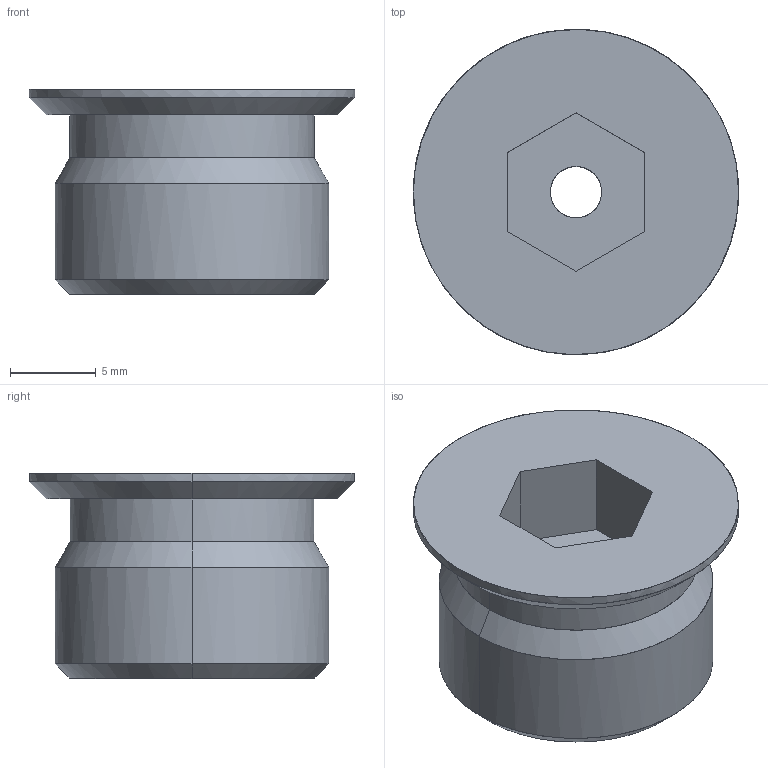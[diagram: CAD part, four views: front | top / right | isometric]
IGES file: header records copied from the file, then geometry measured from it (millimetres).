
Global section: file name: E:\UnigraphicsGraphicData\MISUMI_PRESS-PARTS\IGES\3d_mswzh16_00481_r00.igs; native system: NX V5.0; preprocessor: UGS NX IGES V5.0; author: MISUMI; date: 20110105.161528; units: millimetre
Bounding box: 19 x 19 x 12 mm (x, y, z)
Surface area: 1348.2 mm2 (no closed solid volume)
Topology: 0 solids, 0 shells, 24 faces, 140 edges, 140 vertices
Faces by surface type: bspline 24
